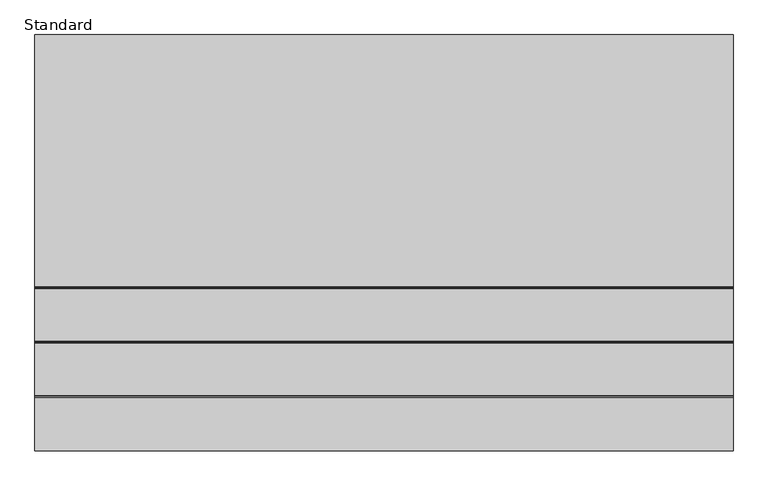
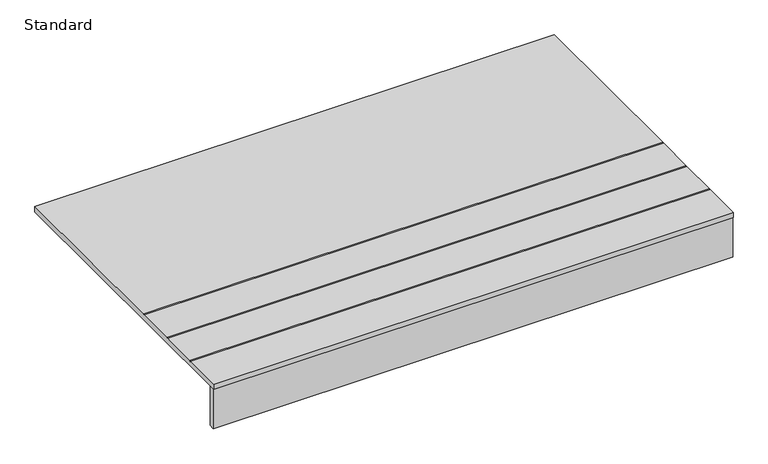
"""IFC4 building model written with IfcOpenShell, lengths in millimetres: furniture geometry, X_Bench-Wall-Duracube-Player Locker : Standard."""

from ifc_helpers import new_model, si_unit, frame, origin, place, context, project, spatial, polyline, outline, extrude, source, transform, mapped, element, save


def standard_1dc56df4(model_context):
    return source(origin(), model_context, "Body", "SweptSolid", [
        extrude(outline(polyline([(-57.5, 457.0), (-792.5, 457.0), (-792.5, 470.0), (-698.5, 470.0), (-696.5, 468.0), (-694.5, 470.0), (-602.5, 470.0), (-600.5, 468.0), (-598.5, 470.0), (-506.5, 470.0), (-504.5, 468.0), (-502.5, 470.0), (-57.5, 470.0), (-57.5, 457.0)])), frame((-571.5496736, 0.0, 0.0), z_axis=(1.0, 0.0, 0.0), x_axis=(0.0, 1.0, 0.0)), (0.0, 0.0, 1.0), 1232.5),
        extrude(outline(polyline([(660.9503264, -777.5), (660.9503264, -790.5), (-571.5496736, -790.5), (-571.5496736, -777.5), (660.9503264, -777.5)])), frame((0.0, 0.0, 357.0), z_axis=(0.0, 0.0, 1.0), x_axis=(1.0, 0.0, 0.0)), (0.0, 0.0, 1.0), 100.0),
    ])


if __name__ == "__main__":
    model = new_model("IFC4")
    model_context = context("Model", 3, world=origin())
    ifc_project = project(units=[si_unit("LENGTHUNIT", "METRE", prefix="MILLI")], contexts=[model_context])
    site = spatial("IfcSite", under=ifc_project)
    building = spatial("IfcBuilding", under=site)
    placement = place(None, origin())
    standard_shape = standard_1dc56df4(model_context)
    element("IfcFurniture", 1, ObjectType="X_Bench-Wall-Duracube-Player Locker : Standard", at=placement, inside=building, context=model_context, shape_type="MappedRepresentation", body=[
        mapped(standard_shape, transform((0.0, 0.0, 0.0), x_axis=(1.0, 0.0, 0.0), y_axis=(0.0, 1.0, 0.0), z_axis=(0.0, 0.0, 1.0))),
    ])
    save(model, "model.ifc")
